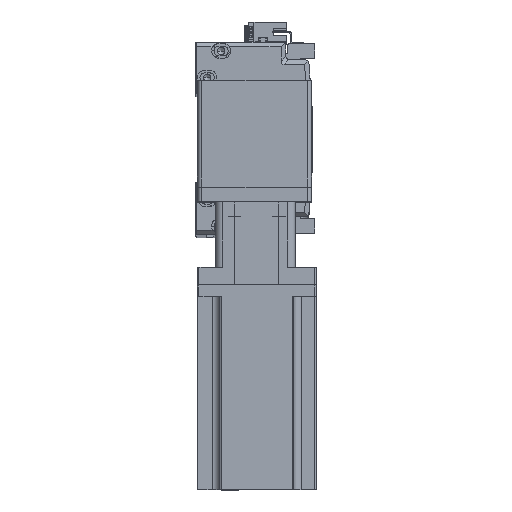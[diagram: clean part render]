
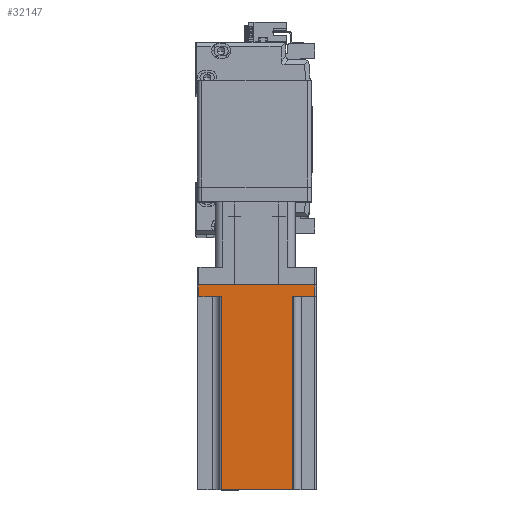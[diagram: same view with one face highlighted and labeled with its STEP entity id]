
A CAD part, top view. The second image highlights one B-rep face of the part: STEP entity #32147.
In plain terms, the highlighted planar face has unit normal (0, 0, 1) as drawn and (0, 1, 0) by its records, which use the part's own axes.
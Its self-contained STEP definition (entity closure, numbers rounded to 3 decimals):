
#41 = LINE ( 'NONE', #36514, #9300 ) ;
#693 = CARTESIAN_POINT ( 'NONE',  ( 40., 40., 138.3 ) ) ;
#1482 = CARTESIAN_POINT ( 'NONE',  ( 40., 40., 0. ) ) ;
#3458 = LINE ( 'NONE', #13200, #17636 ) ;
#3588 = VERTEX_POINT ( 'NONE', #34063 ) ;
#4368 = LINE ( 'NONE', #1482, #44982 ) ;
#4477 = PLANE ( 'NONE',  #41336 ) ;
#4636 = DIRECTION ( 'NONE',  ( 1., 0., 0. ) ) ;
#5022 = EDGE_CURVE ( 'NONE', #19831, #14050, #4368, .T. ) ;
#5103 = ORIENTED_EDGE ( 'NONE', *, *, #8660, .T. ) ;
#6105 = DIRECTION ( 'NONE',  ( 1., 0., 0. ) ) ;
#8158 = CARTESIAN_POINT ( 'NONE',  ( 39., 40., 8. ) ) ;
#8526 = LINE ( 'NONE', #33588, #18996 ) ;
#8660 = EDGE_CURVE ( 'NONE', #47202, #3588, #48782, .T. ) ;
#9300 = VECTOR ( 'NONE', #28617, 1000. ) ;
#9448 = FACE_OUTER_BOUND ( 'NONE', #17389, .T. ) ;
#9566 = LINE ( 'NONE', #10839, #30395 ) ;
#10321 = CARTESIAN_POINT ( 'NONE',  ( -24., 40., 138.3 ) ) ;
#10839 = CARTESIAN_POINT ( 'NONE',  ( -39., 40., 138.3 ) ) ;
#10984 = ORIENTED_EDGE ( 'NONE', *, *, #30943, .T. ) ;
#11043 = VERTEX_POINT ( 'NONE', #22768 ) ;
#11066 = CARTESIAN_POINT ( 'NONE',  ( -39., 40., 8. ) ) ;
#12378 = ORIENTED_EDGE ( 'NONE', *, *, #44890, .T. ) ;
#13076 = VERTEX_POINT ( 'NONE', #41096 ) ;
#13200 = CARTESIAN_POINT ( 'NONE',  ( 24., 40., 138.3 ) ) ;
#13903 = LINE ( 'NONE', #35367, #34729 ) ;
#14050 = VERTEX_POINT ( 'NONE', #19202 ) ;
#14187 = VERTEX_POINT ( 'NONE', #8158 ) ;
#14607 = ORIENTED_EDGE ( 'NONE', *, *, #24323, .F. ) ;
#15034 = CARTESIAN_POINT ( 'NONE',  ( 39., 40., 0. ) ) ;
#17389 = EDGE_LOOP ( 'NONE', ( #41089, #5103, #14607, #12378, #34187, #39412, #46380, #10984 ) ) ;
#17408 = CARTESIAN_POINT ( 'NONE',  ( 25., 40., 8. ) ) ;
#17636 = VECTOR ( 'NONE', #36652, 1000. ) ;
#18996 = VECTOR ( 'NONE', #6105, 1000. ) ;
#19202 = CARTESIAN_POINT ( 'NONE',  ( -39., 40., 0. ) ) ;
#19831 = VERTEX_POINT ( 'NONE', #15034 ) ;
#21113 = LINE ( 'NONE', #17408, #43274 ) ;
#22134 = EDGE_CURVE ( 'NONE', #14187, #19831, #13903, .T. ) ;
#22768 = CARTESIAN_POINT ( 'NONE',  ( 24., 40., 138.3 ) ) ;
#24323 = EDGE_CURVE ( 'NONE', #11043, #3588, #41, .T. ) ;
#25066 = VERTEX_POINT ( 'NONE', #11066 ) ;
#27057 = EDGE_CURVE ( 'NONE', #25066, #47202, #8526, .T. ) ;
#28148 = DIRECTION ( 'NONE',  ( 0., -1., 0. ) ) ;
#28617 = DIRECTION ( 'NONE',  ( -1., 0., 0. ) ) ;
#29057 = VECTOR ( 'NONE', #29851, 1000. ) ;
#29851 = DIRECTION ( 'NONE',  ( 0., 0., 1. ) ) ;
#30395 = VECTOR ( 'NONE', #38316, 1000. ) ;
#30943 = EDGE_CURVE ( 'NONE', #14050, #25066, #9566, .T. ) ;
#32147 = ADVANCED_FACE ( 'NONE', ( #9448 ), #4477, .F. ) ;
#33588 = CARTESIAN_POINT ( 'NONE',  ( -25., 40., 8. ) ) ;
#34063 = CARTESIAN_POINT ( 'NONE',  ( -24., 40., 138.3 ) ) ;
#34187 = ORIENTED_EDGE ( 'NONE', *, *, #37920, .F. ) ;
#34729 = VECTOR ( 'NONE', #43339, 1000. ) ;
#35367 = CARTESIAN_POINT ( 'NONE',  ( 39., 40., 138.3 ) ) ;
#36514 = CARTESIAN_POINT ( 'NONE',  ( 40., 40., 138.3 ) ) ;
#36652 = DIRECTION ( 'NONE',  ( 0., 0., -1. ) ) ;
#36830 = DIRECTION ( 'NONE',  ( -1., 0., 0. ) ) ;
#37920 = EDGE_CURVE ( 'NONE', #14187, #13076, #21113, .T. ) ;
#38316 = DIRECTION ( 'NONE',  ( 0., 0., 1. ) ) ;
#39412 = ORIENTED_EDGE ( 'NONE', *, *, #22134, .T. ) ;
#41089 = ORIENTED_EDGE ( 'NONE', *, *, #27057, .T. ) ;
#41096 = CARTESIAN_POINT ( 'NONE',  ( 24., 40., 8. ) ) ;
#41336 = AXIS2_PLACEMENT_3D ( 'NONE', #693, #28148, #4636 ) ;
#41768 = CARTESIAN_POINT ( 'NONE',  ( -24., 40., 8. ) ) ;
#43274 = VECTOR ( 'NONE', #44903, 1000. ) ;
#43339 = DIRECTION ( 'NONE',  ( 0., 0., -1. ) ) ;
#44890 = EDGE_CURVE ( 'NONE', #11043, #13076, #3458, .T. ) ;
#44903 = DIRECTION ( 'NONE',  ( -1., 0., 0. ) ) ;
#44982 = VECTOR ( 'NONE', #36830, 1000. ) ;
#46380 = ORIENTED_EDGE ( 'NONE', *, *, #5022, .T. ) ;
#47202 = VERTEX_POINT ( 'NONE', #41768 ) ;
#48782 = LINE ( 'NONE', #10321, #29057 ) ;
